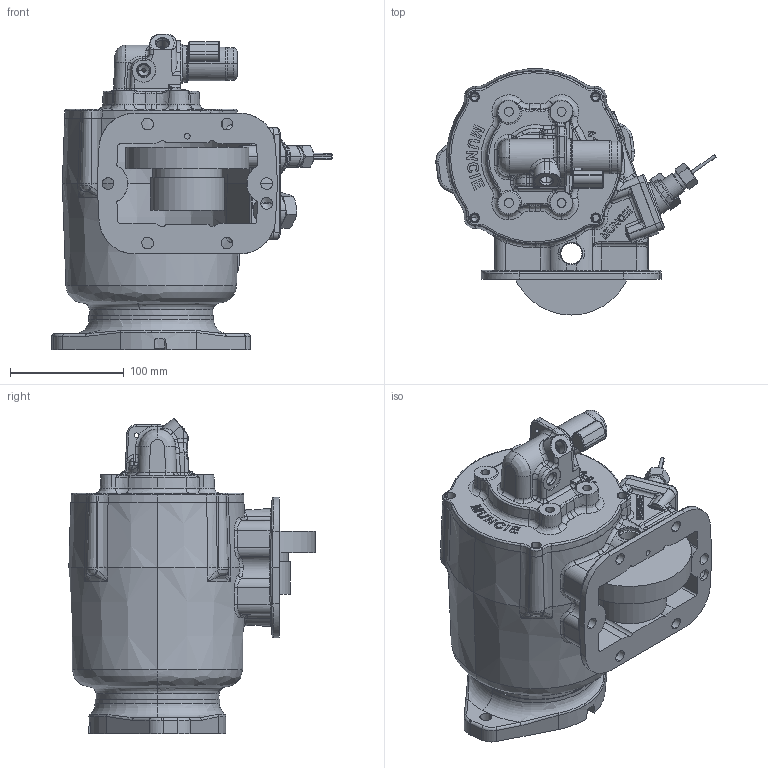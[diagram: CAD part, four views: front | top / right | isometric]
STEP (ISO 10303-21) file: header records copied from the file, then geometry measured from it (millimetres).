
FILE_DESCRIPTION (( 'STEP AP203' ), '1' );
FILE_NAME ('CS6B-A67XX-S1SS.STEP', '2023-04-04T13:25:40', ( '' ), ( '' ), 'SwSTEP 2.0', 'SolidWorks 2021', '' );
FILE_SCHEMA (( 'CONFIG_CONTROL_DESIGN' ));
Products named in the file (1): CS6B-A67XX-S1SS
Bounding box: 246.7 x 216.75 x 278.15 mm (x, y, z)
Surface area: 430236.4 mm2 (no closed solid volume)
Topology: 0 solids, 14 shells, 1978 faces, 5127 edges, 3227 vertices
Faces by surface type: bspline 803, cylinder 554, plane 415, cone 182, torus 24
Entity records: 154484 total; most frequent: CARTESIAN_POINT 112843, ORIENTED_EDGE 10144, DIRECTION 6150, EDGE_CURVE 5074, VERTEX_POINT 3226, B_SPLINE_CURVE_WITH_KNOTS 2257, AXIS2_PLACEMENT_3D 2254, EDGE_LOOP 2200
